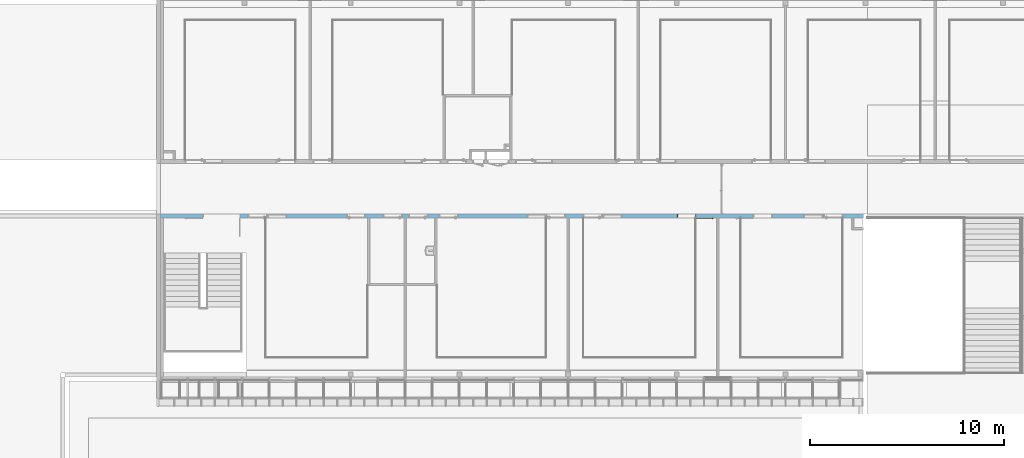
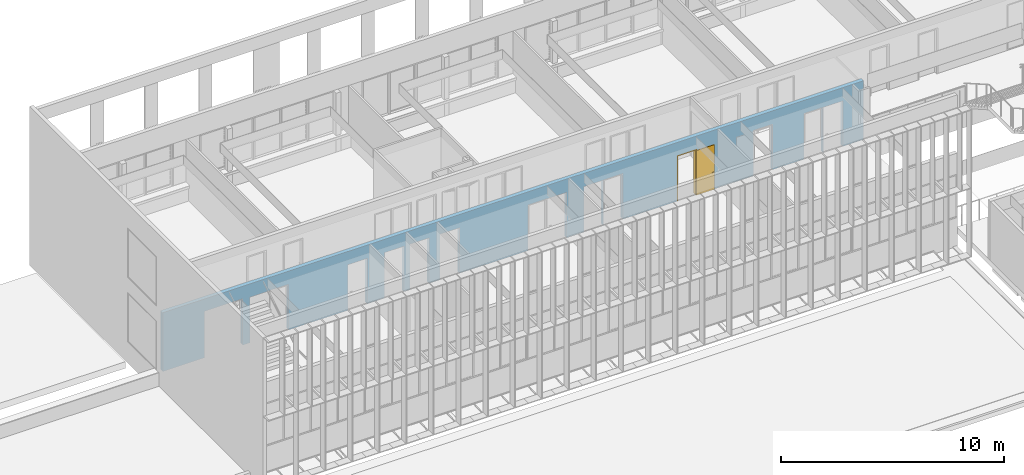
# One storey, part 93 of 106: 1 door, 15 openings, plus 1 element that does not belong to this part.
"""IFC2X3 building model written with IfcOpenShell, lengths in centimetres."""

from ifc_helpers import new_model, entity, si_unit, converted_unit, derived_unit, direction, frame, frame_2d, origin, place, context, subcontext, project, spatial, polyline, rectangle, extrude, clip, bounded_halfspace, faceted_brep, source, transform, mapped, material, material_list, layer, layer_set, layer_usage, type_object, type_shapes, element, fill, save


model = new_model("IFC2X3")

# Units and contexts
model_context = context("Model", 3, precision=0.001, world=origin(), true_north=direction((6.12303176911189e-17, 1.0)))
body_context = subcontext(model_context, "Body", "Model", "MODEL_VIEW")
ifc_project = project(units=[si_unit("LENGTHUNIT", "METRE", prefix="CENTI"), si_unit("AREAUNIT", "SQUARE_METRE"), si_unit("VOLUMEUNIT", "CUBIC_METRE"), converted_unit("PLANEANGLEUNIT", "DEGREE", entity("IfcRatioMeasure", 0.0174532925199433), si_unit("PLANEANGLEUNIT", "RADIAN"), dimensions=[0, 0, 0, 0, 0, 0, 0]), si_unit("MASSUNIT", "GRAM", prefix="KILO"), derived_unit("MASSDENSITYUNIT", [(si_unit("MASSUNIT", "GRAM", prefix="KILO"), 1), (si_unit("LENGTHUNIT", "METRE"), -3)]), si_unit("TIMEUNIT", "SECOND"), si_unit("FREQUENCYUNIT", "HERTZ"), si_unit("THERMODYNAMICTEMPERATUREUNIT", "DEGREE_CELSIUS"), derived_unit("THERMALTRANSMITTANCEUNIT", [(si_unit("MASSUNIT", "GRAM", prefix="KILO"), 1), (si_unit("THERMODYNAMICTEMPERATUREUNIT", "KELVIN"), -1), (si_unit("TIMEUNIT", "SECOND"), -3)]), derived_unit("VOLUMETRICFLOWRATEUNIT", [(si_unit("LENGTHUNIT", "METRE"), 3), (si_unit("TIMEUNIT", "SECOND"), -1)]), si_unit("ELECTRICCURRENTUNIT", "AMPERE"), si_unit("ELECTRICVOLTAGEUNIT", "VOLT"), si_unit("POWERUNIT", "WATT"), si_unit("FORCEUNIT", "NEWTON", prefix="KILO"), si_unit("ILLUMINANCEUNIT", "LUX"), si_unit("LUMINOUSFLUXUNIT", "LUMEN"), si_unit("LUMINOUSINTENSITYUNIT", "CANDELA"), derived_unit("USERDEFINED", [(si_unit("MASSUNIT", "GRAM", prefix="KILO"), -1), (si_unit("LENGTHUNIT", "METRE"), -2), (si_unit("TIMEUNIT", "SECOND"), 3), (si_unit("LUMINOUSFLUXUNIT", "LUMEN"), 1)]), derived_unit("LINEARVELOCITYUNIT", [(si_unit("LENGTHUNIT", "METRE"), 1), (si_unit("TIMEUNIT", "SECOND"), -1)]), si_unit("PRESSUREUNIT", "PASCAL"), derived_unit("USERDEFINED", [(si_unit("LENGTHUNIT", "METRE"), -2), (si_unit("MASSUNIT", "GRAM", prefix="KILO"), 1), (si_unit("TIMEUNIT", "SECOND"), -2)])], contexts=[model_context])

# Site, building, storey
site_placement = place(None, frame((-2781.94577612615, 7442.24238424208, 0.0)))
site = spatial("IfcSite", under=ifc_project, at=site_placement, Name="Default", CompositionType="ELEMENT")
building_placement = place(site_placement, origin())
building = spatial("IfcBuilding", under=site, at=building_placement, CompositionType="ELEMENT")
storey_placement = place(building_placement, frame((0.0, 0.0, 422.0)))
storey = spatial("IfcBuildingStorey", under=building, at=storey_placement, Name="Toiture - Cuisine", CompositionType="ELEMENT", Elevation=421.999999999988)

# Wall, openings, door
ifc_material_1 = material(Name="01 - Maçonnerie")
ifc_layer = layer(ifc_material_1, 20.0)
ifc_layer_set = layer_set([ifc_layer], Name="Mur de base:04 - Structure - béton - 20cm")
ifc_layer_usage = layer_usage(ifc_layer_set, "AXIS2", "NEGATIVE", 10.0)
wall_type = type_object("IfcWallType", Name="Mur de base:04 - Structure - béton - 20cm", PredefinedType="STANDARD", material=ifc_layer_set)
wall_placement = place(building_placement, frame((-4787.99987760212, -1100.0, 422.0), z_axis=(0.0, 0.0, 1.0), x_axis=(-1.0, 0.0, 0.0)))
wall = element("IfcWallStandardCase", 1, at=wall_placement, inside=storey, type_object=wall_type, material=ifc_layer_usage, Name="Mur de base:04 - Structure - béton - 20cm", ObjectType="Mur de base:04 - Structure - béton - 20cm", context=body_context, shape_type="Clipping", body=[
    clip(extrude(rectangle(XDim=3621.50000006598, YDim=20.0000000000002, at=frame_2d((1810.75000003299, 5.32907051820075e-14), x_axis=(-1.0, 0.0))), origin(), (0.0, 0.0, 1.0), 321.0), bounded_halfspace(frame((4.0, -10.0, 321.0), z_axis=(0.0, 0.0, -1.0), x_axis=(0.0, -1.0, 0.0)), True, frame((4.0, -10.0, 321.0)), polyline([(0.0, 0.0), (720.0, 0.0), (730.0, 0.0), (3617.50000006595, 0.0), (3617.50000006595, 20.0), (3602.20000006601, 20.0), (3077.50016406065, 20.0), (3075.50016406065, 20.0), (2550.5, 20.0), (2540.5, 20.0), (2362.50000003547, 20.0), (2352.50000003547, 20.0), (2203.5, 20.0), (2193.5, 20.0), (1632.5, 20.0), (1630.5, 20.0), (1522.50016406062, 20.0), (1512.50016406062, 20.0), (1440.5, 20.0), (1438.5, 20.0), (862.500000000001, 20.0), (860.5, 20.0), (750.500000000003, 20.0), (740.500000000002, 20.0), (630.500000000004, 20.0), (628.500000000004, 20.0), (104.500000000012, 20.0), (102.500000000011, 20.0), (56.0, 20.0), (46.0, 20.0), (0.0, 20.0), (0.0, 0.0)]))),
])
opening_1_placement = place(wall_placement, frame((3071.50016406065, -10.0, 0.0)))
element("IfcOpeningElement", 2, at=opening_1_placement, cuts=wall, Name="Int. Simple:PV (0.93m x 2.50m):1", ObjectType="Opening", context=body_context, shape_type="SweptSolid", body=[
    extrude(rectangle(XDim=248.500000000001, YDim=99.9999999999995, at=frame_2d((124.250000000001, 49.9999999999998), x_axis=(1.0, 0.0))), frame((0.0, 0.0, 0.0), z_axis=(0.0, 1.0, 0.0), x_axis=(0.0, 0.0, 1.0)), (0.0, 0.0, 1.0), 20.0),
])
opening_2_placement = place(wall_placement, frame((1534.5, -10.0, 0.0)))
element("IfcOpeningElement", 3, at=opening_2_placement, cuts=wall, Name="Int. Simple:PV (0.93m x 2.50m):1", ObjectType="Opening", context=body_context, shape_type="SweptSolid", body=[
    extrude(rectangle(XDim=248.500000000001, YDim=99.9999999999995, at=frame_2d((124.250000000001, 50.0), x_axis=(1.0, 0.0))), frame((0.0, 0.0, 0.0), z_axis=(0.0, 1.0, 0.0), x_axis=(0.0, 0.0, 1.0)), (0.0, 0.0, 1.0), 20.0),
])
opening_3_placement = place(wall_placement, frame((861.500000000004, -10.0, 0.0)))
opening_3 = element("IfcOpeningElement", 4, at=opening_3_placement, cuts=wall, Name="Int. Simple:PV (0.93m x 2.50m):1", ObjectType="Opening", context=body_context, shape_type="SweptSolid", body=[
    extrude(rectangle(XDim=248.500000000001, YDim=99.9999999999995, at=frame_2d((124.250000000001, 50.0), x_axis=(1.0, 0.0))), frame((0.0, 0.0, 0.0), z_axis=(0.0, 1.0, 0.0), x_axis=(0.0, 0.0, 1.0)), (0.0, 0.0, 1.0), 20.0),
])
opening_4_placement = place(wall_placement, frame((469.500000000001, -10.0, 0.0)))
element("IfcOpeningElement", 5, at=opening_4_placement, cuts=wall, Name="Int. Simple:PV (0.93m x 2.50m):1", ObjectType="Opening", context=body_context, shape_type="SweptSolid", body=[
    extrude(rectangle(XDim=248.500000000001, YDim=99.9999999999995, at=frame_2d((124.250000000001, 49.9999999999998), x_axis=(1.0, 0.0))), frame((0.0, 0.0, 0.0), z_axis=(0.0, 1.0, 0.0), x_axis=(0.0, 0.0, 1.0)), (0.0, 0.0, 1.0), 20.0),
])
opening_5_placement = place(wall_placement, frame((2971.50016406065, -10.0, 0.0)))
element("IfcOpeningElement", 6, at=opening_5_placement, cuts=wall, Name="châssis intérieur vitré:châssis intérieur vitré (h=270) R+1:1", ObjectType="Opening", context=body_context, shape_type="SweptSolid", body=[
    extrude(rectangle(XDim=250.0, YDim=99.9999999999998, at=frame_2d((125.0, 49.9999999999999), x_axis=(1.0, 0.0))), frame((0.0, 0.0, 0.0), z_axis=(0.0, 1.0, 0.0), x_axis=(0.0, 0.0, 1.0)), (0.0, 0.0, 1.0), 20.0),
])
opening_6_placement = place(wall_placement, frame((1634.50000000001, -10.0, 0.0)))
element("IfcOpeningElement", 7, at=opening_6_placement, cuts=wall, Name="châssis intérieur vitré:châssis intérieur vitré (h=270) R+1:1", ObjectType="Opening", context=body_context, shape_type="SweptSolid", body=[
    extrude(rectangle(XDim=250.0, YDim=99.9999999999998, at=frame_2d((125.0, 49.9999999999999), x_axis=(1.0, 0.0))), frame((0.0, 0.0, 0.0), z_axis=(0.0, 1.0, 0.0), x_axis=(0.0, 0.0, 1.0)), (0.0, 0.0, 1.0), 20.0),
])
opening_7_placement = place(wall_placement, frame((1243.0, -10.0, 0.0)))
element("IfcOpeningElement", 8, at=opening_7_placement, cuts=wall, Name="châssis intérieur vitré:châssis intérieur vitré (h=270) R+1:1", ObjectType="Opening", context=body_context, shape_type="SweptSolid", body=[
    extrude(rectangle(XDim=250.0, YDim=99.9999999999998, at=frame_2d((125.0, 49.9999999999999), x_axis=(1.0, 0.0))), frame((0.0, 0.0, 0.0), z_axis=(0.0, 1.0, 0.0), x_axis=(0.0, 0.0, 1.0)), (0.0, 0.0, 1.0), 20.0),
])
opening_8_placement = place(wall_placement, frame((208.0, -10.0, 0.0)))
element("IfcOpeningElement", 9, at=opening_8_placement, cuts=wall, Name="châssis intérieur vitré:châssis intérieur vitré (h=270) R+1:1", ObjectType="Opening", context=body_context, shape_type="SweptSolid", body=[
    extrude(rectangle(XDim=250.0, YDim=99.9999999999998, at=frame_2d((125.0, 49.9999999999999), x_axis=(1.0, 0.0))), frame((0.0, 0.0, 0.0), z_axis=(0.0, 1.0, 0.0), x_axis=(0.0, 0.0, 1.0)), (0.0, 0.0, 1.0), 20.0),
])
opening_9_placement = place(wall_placement, frame((2564.5, -10.0, 0.0)))
element("IfcOpeningElement", 10, at=opening_9_placement, cuts=wall, Name="Int. Simple:PV (0.93m x 2.50m):1", ObjectType="Opening", context=body_context, shape_type="SweptSolid", body=[
    extrude(rectangle(XDim=248.500000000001, YDim=99.9999999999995, at=frame_2d((124.250000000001, 50.0), x_axis=(1.0, 0.0))), frame((0.0, 0.0, 0.0), z_axis=(0.0, 1.0, 0.0), x_axis=(0.0, 0.0, 1.0)), (0.0, 0.0, 1.0), 20.0),
])
opening_10_placement = place(wall_placement, frame((2374.5, -10.0, 0.0)))
element("IfcOpeningElement", 11, at=opening_10_placement, cuts=wall, Name="Int. Simple:PP simple (0.93m x 2.50m):1", ObjectType="Opening", context=body_context, shape_type="SweptSolid", body=[
    extrude(rectangle(XDim=248.500000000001, YDim=99.9999999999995, at=frame_2d((124.250000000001, 49.9999999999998), x_axis=(1.0, 0.0))), frame((0.0, 0.0, 0.0), z_axis=(0.0, 1.0, 0.0), x_axis=(0.0, 0.0, 1.0)), (0.0, 0.0, 1.0), 20.0),
])
opening_11_placement = place(wall_placement, frame((2244.5, -10.0, 0.0)))
element("IfcOpeningElement", 12, at=opening_11_placement, cuts=wall, Name="Int. Simple:PP simple (0.93m x 2.50m):1", ObjectType="Opening", context=body_context, shape_type="SweptSolid", body=[
    extrude(rectangle(XDim=248.500000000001, YDim=99.9999999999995, at=frame_2d((124.250000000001, 49.9999999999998), x_axis=(1.0, 0.0))), frame((0.0, 0.0, 0.0), z_axis=(0.0, 1.0, 0.0), x_axis=(0.0, 0.0, 1.0)), (0.0, 0.0, 1.0), 20.0),
])
opening_12_placement = place(wall_placement, frame((2087.5, -10.0, 0.0)))
element("IfcOpeningElement", 13, at=opening_12_placement, cuts=wall, Name="Int. Simple:PV (0.93m x 2.50m):1", ObjectType="Opening", context=body_context, shape_type="SweptSolid", body=[
    extrude(rectangle(XDim=248.500000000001, YDim=99.9999999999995, at=frame_2d((124.250000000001, 49.9999999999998), x_axis=(1.0, 0.0))), frame((0.0, 0.0, 0.0), z_axis=(0.0, 1.0, 0.0), x_axis=(0.0, 0.0, 1.0)), (0.0, 0.0, 1.0), 20.0),
])
opening_13_placement = place(wall_placement, frame((1344.5, -10.0, 0.0)))
element("IfcOpeningElement", 14, at=opening_13_placement, cuts=wall, Name="Int. Simple:PV (0.93m x 2.50m):1", ObjectType="Opening", context=body_context, shape_type="SweptSolid", body=[
    extrude(rectangle(XDim=248.500000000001, YDim=99.9999999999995, at=frame_2d((124.250000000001, 49.9999999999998), x_axis=(1.0, 0.0))), frame((0.0, 0.0, 0.0), z_axis=(0.0, 1.0, 0.0), x_axis=(0.0, 0.0, 1.0)), (0.0, 0.0, 1.0), 20.0),
])
opening_14_placement = place(wall_placement, frame((106.500000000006, -10.0, 0.0)))
element("IfcOpeningElement", 15, at=opening_14_placement, cuts=wall, Name="Int. Simple:PV (0.93m x 2.50m):1", ObjectType="Opening", context=body_context, shape_type="SweptSolid", body=[
    extrude(rectangle(XDim=248.500000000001, YDim=99.9999999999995, at=frame_2d((124.250000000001, 50.0), x_axis=(1.0, 0.0))), frame((0.0, 0.0, 0.0), z_axis=(0.0, 1.0, 0.0), x_axis=(0.0, 0.0, 1.0)), (0.0, 0.0, 1.0), 20.0),
])
opening_15_placement = place(wall_placement, frame((3208.50000000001, -10.0, 0.0)))
element("IfcOpeningElement", 16, at=opening_15_placement, cuts=wall, Name="Int. Double:PP (1.90m x 2.50m):1", ObjectType="Opening", context=body_context, shape_type="SweptSolid", body=[
    extrude(rectangle(XDim=253.500000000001, YDim=197.0, at=frame_2d((126.750000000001, 98.5), x_axis=(1.0, 0.0))), frame((0.0, 0.0, 0.0), z_axis=(0.0, 1.0, 0.0), x_axis=(0.0, 0.0, 1.0)), (0.0, 0.0, 1.0), 20.0),
])
ifc_material_2 = material(Name="Finition Peinture - Blanc satiné")
ifc_material_3 = material(Name="Bois - Panneau de porte")
ifc_material_4 = material(Name="Bois - Cadre de porte")
ifc_material_list_1 = material_list([ifc_material_2, ifc_material_3, ifc_material_4])
ifc_material_list_2 = material_list([ifc_material_2, ifc_material_3, ifc_material_4])
door_style = type_object("IfcDoorStyle", Name="PV (0.93m x 2.50m)", ConstructionType="NOTDEFINED", OperationType="SINGLE_SWING_LEFT", ParameterTakesPrecedence=False, Sizeable=False, material=ifc_material_list_2)
shared_shape = source(origin(), body_context, "Body", "Brep", [
    faceted_brep([(182.464723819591, 0.499999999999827, 86.6003983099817), (181.500000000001, 0.499999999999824, 87.0), (181.500000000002, 0.499999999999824, 108.0), (182.464723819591, 0.499999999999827, 108.399601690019), (183.500000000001, 0.49999999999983, 108.535898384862), (184.535276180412, 0.499999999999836, 108.399601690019), (185.500000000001, 0.499999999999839, 108.0), (185.500000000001, 0.499999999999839, 87.0), (184.535276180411, 0.499999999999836, 86.6003983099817), (183.500000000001, 0.49999999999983, 86.464101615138), (182.464723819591, 0.0, 108.399601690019), (181.500000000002, 0.0, 108.0), (181.500000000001, 0.0, 87.0), (182.464723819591, 0.0, 86.6003983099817), (183.500000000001, 0.0, 86.464101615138), (184.535276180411, 0.0, 86.6003983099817), (185.500000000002, 0.0, 87.0), (185.500000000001, 0.0, 108.0), (184.535276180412, 0.0, 108.399601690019), (183.500000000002, 0.0, 108.535898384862)], [[[0, 1, 2, 3, 4, 5, 6, 7, 8, 9]], [[10, 11, 12, 13, 14, 15, 16, 17, 18, 19]], [[16, 15, 8, 7]], [[8, 15, 14, 9]], [[14, 13, 0, 9]], [[13, 12, 1, 0]], [[2, 1, 12, 11]], [[11, 10, 3, 2]], [[3, 10, 19, 4]], [[19, 18, 5, 4]], [[18, 17, 6, 5]], [[7, 6, 17, 16]]]),
    faceted_brep([(182.464723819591, -4.0, 86.6003983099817), (181.500000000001, -4.0, 87.0), (181.500000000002, -4.0, 108.0), (182.464723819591, -4.0, 108.399601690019), (183.500000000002, -4.0, 108.535898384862), (184.535276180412, -4.0, 108.399601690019), (185.500000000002, -4.0, 108.0), (185.500000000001, -4.0, 87.0), (184.535276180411, -4.0, 86.6003983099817), (183.500000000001, -4.0, 86.464101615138), (182.464723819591, -4.50000000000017, 108.399601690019), (181.500000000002, -4.50000000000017, 108.0), (181.500000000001, -4.50000000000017, 87.0), (182.464723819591, -4.50000000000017, 86.6003983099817), (183.500000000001, -4.50000000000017, 86.464101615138), (184.535276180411, -4.50000000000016, 86.6003983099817), (185.500000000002, -4.50000000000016, 87.0), (185.500000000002, -4.50000000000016, 108.0), (184.535276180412, -4.50000000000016, 108.399601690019), (183.500000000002, -4.50000000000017, 108.535898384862)], [[[0, 1, 2, 3, 4, 5, 6, 7, 8, 9]], [[10, 11, 12, 13, 14, 15, 16, 17, 18, 19]], [[11, 10, 3, 2]], [[3, 10, 19, 4]], [[19, 18, 5, 4]], [[18, 17, 6, 5]], [[7, 6, 17, 16]], [[16, 15, 8, 7]], [[8, 15, 14, 9]], [[14, 13, 0, 9]], [[13, 12, 1, 0]], [[2, 1, 12, 11]]]),
    faceted_brep([(183.702529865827, 0.499999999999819, 100.778044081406), (183.297470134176, 0.499999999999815, 100.778044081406), (182.899999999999, 0.499999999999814, 100.699999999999), (182.9, 0.499999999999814, 99.3000000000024), (183.297470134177, 0.499999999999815, 99.2219559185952), (183.702529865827, 0.499999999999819, 99.221955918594), (184.100000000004, 0.499999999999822, 99.2999999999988), (184.100000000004, 0.499999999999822, 100.7), (184.100000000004, 3.26509507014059, 100.7), (183.702529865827, 3.10045754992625, 100.778044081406), (182.097641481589, 4.70534593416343, 100.778044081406), (181.929860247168, 4.30028620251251, 100.778044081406), (183.297470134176, 2.93267631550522, 100.778044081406), (182.899999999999, 2.76803879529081, 100.7), (182.899999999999, 2.7680387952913, 99.3000000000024), (183.297470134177, 2.93267631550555, 99.2219559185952), (181.929860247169, 4.3002862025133, 99.2219559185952), (182.09764148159, 4.70534593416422, 99.221955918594), (183.702529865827, 3.10045754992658, 99.221955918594), (184.100000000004, 3.26509507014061, 99.2999999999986), (182.262279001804, 5.10281606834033, 100.7), (181.765222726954, 3.90281606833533, 100.7), (181.765222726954, 3.90281606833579, 99.3000000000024), (182.262279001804, 5.10281606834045, 99.2999999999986), (173.498135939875, 5.1028160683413, 99.2999999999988), (173.498135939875, 4.70534593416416, 99.221955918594), (173.498135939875, 4.30028620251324, 99.2219559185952), (173.498135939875, 3.90281606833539, 99.3000000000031), (173.498135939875, 3.90281606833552, 100.7), (173.498135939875, 4.30028620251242, 100.778044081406), (173.498135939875, 4.70534593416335, 100.778044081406), (173.498135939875, 5.10281606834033, 100.699999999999), (178.26923027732, 5.10281606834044, 100.7), (177.713998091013, 4.50281606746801, 100.78786867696), (177.631679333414, 3.90281606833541, 100.7), (177.631679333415, 3.9028160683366, 99.3000000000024), (177.713998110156, 4.50281607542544, 99.2121313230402), (178.269229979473, 5.10281606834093, 99.2999999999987)], [[[0, 1, 2, 3, 4, 5, 6, 7]], [[8, 9, 0, 7]], [[9, 10, 11, 12, 1, 0]], [[12, 13, 2, 1]], [[3, 2, 13, 14]], [[14, 15, 4, 3]], [[15, 16, 17, 18, 5, 4]], [[18, 19, 6, 5]], [[7, 6, 19, 8]], [[20, 10, 9, 8]], [[11, 21, 13, 12]], [[14, 13, 21, 22]], [[22, 16, 15, 14]], [[17, 23, 19, 18]], [[8, 19, 23, 20]], [[24, 25, 26, 27, 28, 29, 30, 31]], [[32, 30, 33]], [[31, 30, 32]], [[10, 20, 32]], [[33, 34, 11]], [[21, 11, 34]], [[34, 29, 28]], [[30, 29, 33]], [[29, 34, 33]], [[10, 32, 33]], [[10, 33, 11]], [[22, 21, 34, 28, 27, 35]], [[35, 26, 36]], [[37, 36, 25]], [[22, 35, 16]], [[35, 27, 26]], [[24, 37, 25]], [[23, 17, 37]], [[37, 17, 36]], [[17, 16, 36]], [[16, 35, 36]], [[25, 36, 26]], [[20, 23, 37, 24, 31, 32]]]),
    faceted_brep([(183.702529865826, -4.50000000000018, 100.778044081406), (184.100000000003, -4.50000000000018, 100.7), (184.100000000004, -4.50000000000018, 99.2999999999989), (183.702529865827, -4.50000000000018, 99.221955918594), (183.297470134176, -4.50000000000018, 99.2219559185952), (182.899999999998, -4.50000000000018, 99.3000000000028), (182.899999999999, -4.50000000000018, 100.7), (183.297470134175, -4.50000000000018, 100.778044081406), (182.899999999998, -6.74852045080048, 99.3000000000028), (182.899999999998, -6.74852045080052, 100.7), (183.297470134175, -6.91315797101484, 100.778044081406), (181.916109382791, -8.29451872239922, 100.778044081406), (182.083890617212, -8.69957845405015, 100.778044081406), (183.702529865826, -7.08093920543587, 100.778044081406), (184.100000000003, -7.24557672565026, 100.7), (184.100000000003, -7.24557672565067, 99.2999999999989), (183.702529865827, -7.08093920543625, 99.221955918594), (182.083890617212, -8.69957845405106, 99.221955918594), (181.916109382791, -8.29451872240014, 99.2219559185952), (183.297470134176, -6.91315797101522, 99.2219559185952), (181.751471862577, -7.89704858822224, 99.3000000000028), (181.751471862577, -7.89704858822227, 100.7), (182.248528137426, -9.09704858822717, 100.7), (182.248528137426, -9.09704858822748, 99.2999999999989), (173.495421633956, -7.89704858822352, 99.3000000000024), (173.495421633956, -8.29451872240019, 99.2219559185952), (173.495421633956, -8.69957845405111, 99.221955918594), (173.495421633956, -9.09704858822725, 99.2999999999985), (173.495421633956, -9.09704858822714, 100.7), (173.495421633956, -8.69957845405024, 100.778044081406), (173.495421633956, -8.29451872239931, 100.778044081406), (173.495421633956, -7.89704858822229, 100.7), (177.623447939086, -7.89704858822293, 99.3000000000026), (177.623446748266, -7.89704858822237, 100.7), (177.705765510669, -8.49704858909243, 100.78786867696), (178.255479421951, -9.09704858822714, 100.7), (178.255479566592, -9.09704858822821, 99.2999999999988), (177.705765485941, -8.49704858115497, 99.2121313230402)], [[[0, 1, 2, 3, 4, 5, 6, 7]], [[6, 5, 8, 9]], [[9, 10, 7, 6]], [[10, 11, 12, 13, 0, 7]], [[13, 14, 1, 0]], [[2, 1, 14, 15]], [[15, 16, 3, 2]], [[16, 17, 18, 19, 4, 3]], [[19, 8, 5, 4]], [[9, 8, 20, 21]], [[21, 11, 10, 9]], [[12, 22, 14, 13]], [[15, 14, 22, 23]], [[23, 17, 16, 15]], [[18, 20, 8, 19]], [[24, 25, 26, 27, 28, 29, 30, 31]], [[21, 20, 32, 24, 31, 33]], [[33, 30, 34]], [[35, 34, 29]], [[21, 33, 11]], [[33, 31, 30]], [[28, 35, 29]], [[22, 12, 35]], [[35, 12, 34]], [[12, 11, 34]], [[11, 33, 34]], [[29, 34, 30]], [[22, 35, 28, 27, 36, 23]], [[36, 26, 37]], [[27, 26, 36]], [[17, 23, 36]], [[37, 32, 18]], [[20, 18, 32]], [[32, 25, 24]], [[26, 25, 37]], [[25, 32, 37]], [[17, 36, 37]], [[17, 37, 18]]]),
    faceted_brep([(189.500000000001, -4.0, 245.0), (96.5000000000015, -4.0, 245.0), (96.5000000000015, -4.0, 0.0), (189.500000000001, -4.0, 0.0), (189.500000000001, 0.0, 245.0), (189.500000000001, 0.0, 0.0), (96.5000000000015, 0.0, 0.0), (96.5000000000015, 0.0, 245.0)], [[[0, 1, 2, 3]], [[4, 5, 6, 7]], [[1, 0, 4, 7]], [[2, 1, 7, 6]], [[3, 2, 6, 5]], [[0, 3, 5, 4]]]),
    faceted_brep([(0.0, 20.0, 0.0), (-1.50000000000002, 20.0, 0.0), (-1.50000000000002, 20.5000000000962, 0.0), (5.0, 20.5000000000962, 0.0), (5.0, 4.0, 0.0), (3.50000000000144, 4.0, 0.0), (3.50000000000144, -0.500000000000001, 0.0), (-1.50000000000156, -0.500000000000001, 0.0), (-1.50000000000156, 0.0, 0.0), (0.0, 0.0, 0.0), (0.0, 20.0, 248.500000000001), (100.0, 20.0, 248.500000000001), (100.0, 20.0, 0.0), (101.5, 20.0, 0.0), (101.5, 20.0, 250.0), (-1.50000000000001, 20.0, 250.0), (-1.50000000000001, 20.5000000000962, 250.0), (101.5, 20.5000000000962, 250.0), (101.5, 20.5000000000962, 0.0), (95.0, 20.5000000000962, 0.0), (95.0, 20.5000000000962, 243.5), (5.0, 20.5000000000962, 243.5), (5.0, 4.0, 243.5), (95.0, 4.0, 243.5), (95.0, 4.0, 0.0), (96.499999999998, 4.0, 0.0), (96.499999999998, 4.0, 245.0), (3.50000000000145, 4.0, 245.0), (3.50000000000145, -0.500000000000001, 245.0), (96.499999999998, -0.500000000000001, 245.0), (96.499999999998, -0.500000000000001, 0.0), (101.500000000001, -0.500000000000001, 0.0), (101.500000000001, -0.500000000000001, 250.0), (-1.50000000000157, -0.500000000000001, 250.0), (-1.50000000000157, 0.0, 250.0), (101.500000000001, 0.0, 250.0), (101.500000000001, 0.0, 0.0), (100.0, 0.0, 0.0), (100.0, 0.0, 248.500000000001), (0.0, 0.0, 248.500000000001)], [[[0, 1, 2, 3, 4, 5, 6, 7, 8, 9]], [[1, 0, 10, 11, 12, 13, 14, 15]], [[2, 1, 15, 16]], [[3, 2, 16, 17, 18, 19, 20, 21]], [[3, 21, 22, 4]], [[5, 4, 22, 23, 24, 25, 26, 27]], [[5, 27, 28, 6]], [[7, 6, 28, 29, 30, 31, 32, 33]], [[8, 7, 33, 34]], [[9, 8, 34, 35, 36, 37, 38, 39]], [[0, 9, 39, 10]], [[11, 38, 37, 12]], [[12, 37, 36, 31, 30, 25, 24, 19, 18, 13]], [[17, 14, 13, 18]], [[23, 20, 19, 24]], [[29, 26, 25, 30]], [[35, 32, 31, 36]], [[16, 15, 14, 17]], [[22, 21, 20, 23]], [[28, 27, 26, 29]], [[34, 33, 32, 35]], [[10, 39, 38, 11]]]),
])
type_shapes(door_style, [shared_shape])
door_placement = place(opening_3_placement, frame((100.0, 20.0, 0.0), z_axis=(0.0, 0.0, 1.0), x_axis=(-1.0, 0.0, 0.0)))
door = element("IfcDoor", 17, at=door_placement, inside=storey, type_object=door_style, material=ifc_material_list_1, Name="Int. Simple:PV (0.93m x 2.50m)", ObjectType="Int. Simple:PV (0.93m x 2.50m)", OverallHeight=248.500000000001, OverallWidth=99.9999999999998, context=body_context, shape_type="MappedRepresentation", body=[
    mapped(shared_shape, transform((0.0, 0.0, 0.0), scale=1.0)),
])
fill(opening_3, door)

save(model, "model.ifc")
